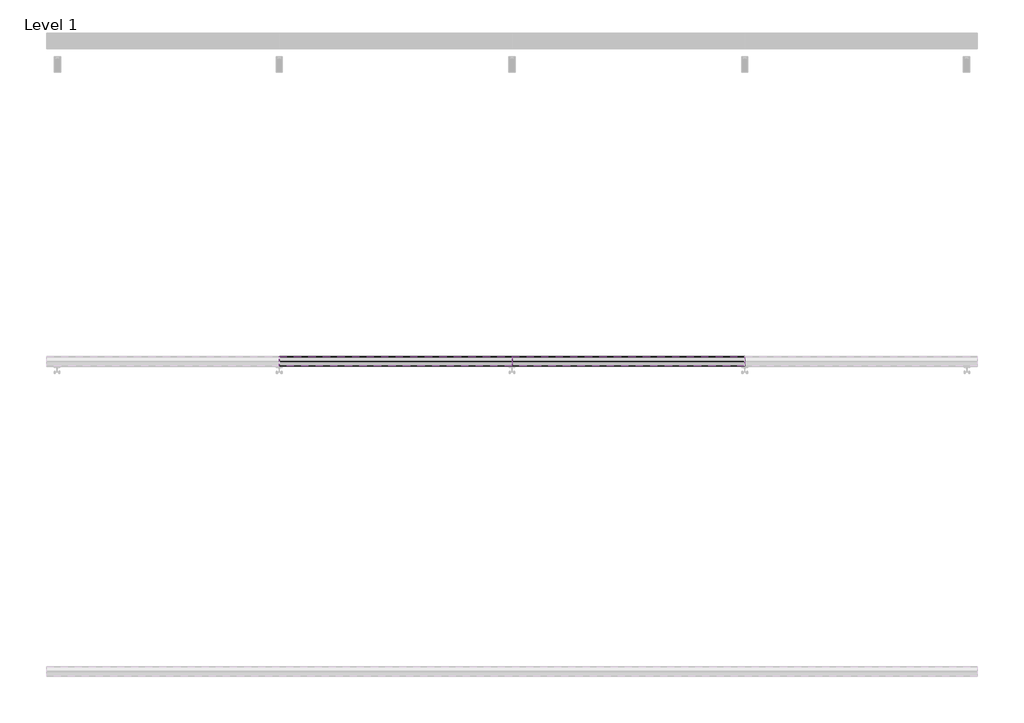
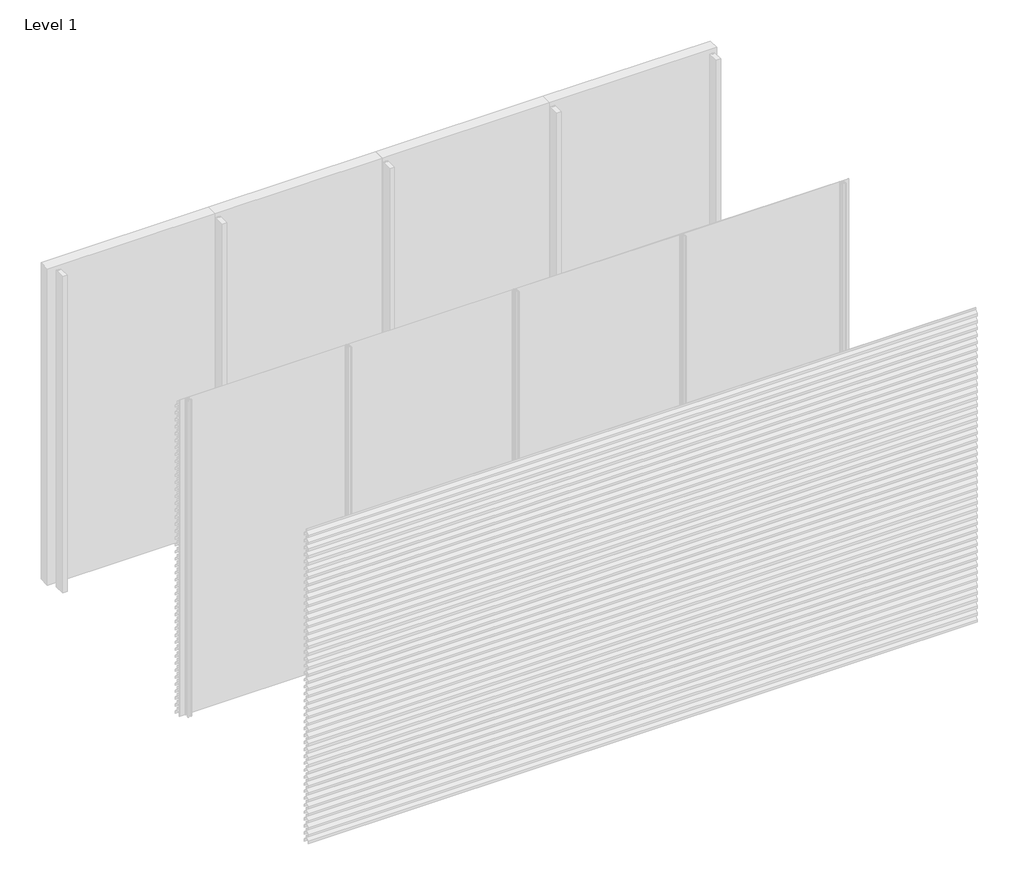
# One storey, part 11 of 35: 70 proxies.
"""IFC4 building model written with IfcOpenShell, lengths in millimetres."""

from ifc_helpers import new_model, si_unit, frame, origin, place, context, project, spatial, polyline, outline, extrude, element, save

model = new_model("IFC4")

# Units and contexts
model_context = context("Model", 3, world=origin())
ifc_project = project(units=[si_unit("LENGTHUNIT", "METRE", prefix="MILLI")], contexts=[model_context])

# Site, building, storey
site = spatial("IfcSite", under=ifc_project)
building = spatial("IfcBuilding", under=site)
storey = spatial("IfcBuildingStorey", under=building, Name="Level 1", Elevation=0.0)

# Proxies
placement = place(None, origin())
element("IfcBuildingElementProxy", 1, Name="Wall Sweeps", at=placement, inside=storey, context=model_context, shape_type="SweptSolid", body=[
    extrude(outline(polyline([(-41936.0, 1530.0), (-41936.0, 1510.0), (-41937.25, 1510.0), (-41937.25, 1529.4342979), (-41968.1138939, 1562.531772), (-41996.7, 1542.4392868), (-41996.7, 1523.6629874), (-41998.0, 1522.8506572), (-41998.0, 1543.1145472), (-41968.537525, 1563.823011), (-41968.537525, 1584.0), (-41967.1772624, 1584.0), (-41967.1772624, 1563.4335207), (-41936.0, 1530.0)])), frame((1500.0, 0.0, 0.0), z_axis=(1.0, 0.0, 0.0), x_axis=(0.0, 1.0, 0.0)), (0.0, 0.0, 1.0), 1500.0),
])
element("IfcBuildingElementProxy", 2, Name="Wall Sweeps", at=placement, inside=storey, context=model_context, shape_type="SweptSolid", body=[
    extrude(outline(polyline([(-41936.0, 1464.0), (-41936.0, 1444.0), (-41937.25, 1444.0), (-41937.25, 1463.4342979), (-41968.1138939, 1496.531772), (-41996.7, 1476.4392868), (-41996.7, 1457.6629874), (-41998.0, 1456.8506572), (-41998.0, 1477.1145472), (-41968.537525, 1497.823011), (-41968.537525, 1518.0), (-41967.1772624, 1518.0), (-41967.1772624, 1497.4335207), (-41936.0, 1464.0)])), frame((1500.0, 0.0, 0.0), z_axis=(1.0, 0.0, 0.0), x_axis=(0.0, 1.0, 0.0)), (0.0, 0.0, 1.0), 1500.0),
])
element("IfcBuildingElementProxy", 3, Name="Wall Sweeps", at=placement, inside=storey, context=model_context, shape_type="SweptSolid", body=[
    extrude(outline(polyline([(-41936.0, 1398.0), (-41936.0, 1378.0), (-41937.25, 1378.0), (-41937.25, 1397.4342979), (-41968.1138939, 1430.531772), (-41996.7, 1410.4392868), (-41996.7, 1391.6629874), (-41998.0, 1390.8506572), (-41998.0, 1411.1145472), (-41968.537525, 1431.823011), (-41968.537525, 1452.0), (-41967.1772624, 1452.0), (-41967.1772624, 1431.4335207), (-41936.0, 1398.0)])), frame((1500.0, 0.0, 0.0), z_axis=(1.0, 0.0, 0.0), x_axis=(0.0, 1.0, 0.0)), (0.0, 0.0, 1.0), 1500.0),
])
element("IfcBuildingElementProxy", 4, Name="Wall Sweeps", at=placement, inside=storey, context=model_context, shape_type="SweptSolid", body=[
    extrude(outline(polyline([(-41936.0, 1332.0), (-41936.0, 1312.0), (-41937.25, 1312.0), (-41937.25, 1331.4342979), (-41968.1138939, 1364.531772), (-41996.7, 1344.4392868), (-41996.7, 1325.6629874), (-41998.0, 1324.8506572), (-41998.0, 1345.1145472), (-41968.537525, 1365.823011), (-41968.537525, 1386.0), (-41967.1772624, 1386.0), (-41967.1772624, 1365.4335207), (-41936.0, 1332.0)])), frame((1500.0, 0.0, 0.0), z_axis=(1.0, 0.0, 0.0), x_axis=(0.0, 1.0, 0.0)), (0.0, 0.0, 1.0), 1500.0),
])
element("IfcBuildingElementProxy", 5, Name="Wall Sweeps", at=placement, inside=storey, context=model_context, shape_type="SweptSolid", body=[
    extrude(outline(polyline([(-41936.0, 1266.0), (-41936.0, 1246.0), (-41937.25, 1246.0), (-41937.25, 1265.4342979), (-41968.1138939, 1298.531772), (-41996.7, 1278.4392868), (-41996.7, 1259.6629874), (-41998.0, 1258.8506572), (-41998.0, 1279.1145472), (-41968.537525, 1299.823011), (-41968.537525, 1320.0), (-41967.1772624, 1320.0), (-41967.1772624, 1299.4335207), (-41936.0, 1266.0)])), frame((1500.0, 0.0, 0.0), z_axis=(1.0, 0.0, 0.0), x_axis=(0.0, 1.0, 0.0)), (0.0, 0.0, 1.0), 1500.0),
])
element("IfcBuildingElementProxy", 6, Name="Wall Sweeps", at=placement, inside=storey, context=model_context, shape_type="SweptSolid", body=[
    extrude(outline(polyline([(-41936.0, 1200.0), (-41936.0, 1180.0), (-41937.25, 1180.0), (-41937.25, 1199.4342979), (-41968.1138939, 1232.531772), (-41996.7, 1212.4392868), (-41996.7, 1193.6629874), (-41998.0, 1192.8506572), (-41998.0, 1213.1145472), (-41968.537525, 1233.823011), (-41968.537525, 1254.0), (-41967.1772624, 1254.0), (-41967.1772624, 1233.4335207), (-41936.0, 1200.0)])), frame((1500.0, 0.0, 0.0), z_axis=(1.0, 0.0, 0.0), x_axis=(0.0, 1.0, 0.0)), (0.0, 0.0, 1.0), 1500.0),
])
element("IfcBuildingElementProxy", 7, Name="Wall Sweeps", at=placement, inside=storey, context=model_context, shape_type="SweptSolid", body=[
    extrude(outline(polyline([(-41936.0, 1134.0), (-41936.0, 1114.0), (-41937.25, 1114.0), (-41937.25, 1133.4342979), (-41968.1138939, 1166.531772), (-41996.7, 1146.4392868), (-41996.7, 1127.6629874), (-41998.0, 1126.8506572), (-41998.0, 1147.1145472), (-41968.537525, 1167.823011), (-41968.537525, 1188.0), (-41967.1772624, 1188.0), (-41967.1772624, 1167.4335207), (-41936.0, 1134.0)])), frame((1500.0, 0.0, 0.0), z_axis=(1.0, 0.0, 0.0), x_axis=(0.0, 1.0, 0.0)), (0.0, 0.0, 1.0), 1500.0),
])
element("IfcBuildingElementProxy", 8, Name="Wall Sweeps", at=placement, inside=storey, context=model_context, shape_type="SweptSolid", body=[
    extrude(outline(polyline([(-41936.0, 1068.0), (-41936.0, 1048.0), (-41937.25, 1048.0), (-41937.25, 1067.4342979), (-41968.1138939, 1100.531772), (-41996.7, 1080.4392868), (-41996.7, 1061.6629874), (-41998.0, 1060.8506572), (-41998.0, 1081.1145472), (-41968.537525, 1101.823011), (-41968.537525, 1122.0), (-41967.1772624, 1122.0), (-41967.1772624, 1101.4335207), (-41936.0, 1068.0)])), frame((1500.0, 0.0, 0.0), z_axis=(1.0, 0.0, 0.0), x_axis=(0.0, 1.0, 0.0)), (0.0, 0.0, 1.0), 1500.0),
])
element("IfcBuildingElementProxy", 9, Name="Wall Sweeps", at=placement, inside=storey, context=model_context, shape_type="SweptSolid", body=[
    extrude(outline(polyline([(-41936.0, 1002.0), (-41936.0, 982.0), (-41937.25, 982.0), (-41937.25, 1001.4342979), (-41968.1138939, 1034.531772), (-41996.7, 1014.4392868), (-41996.7, 995.6629874), (-41998.0, 994.8506572), (-41998.0, 1015.1145472), (-41968.537525, 1035.823011), (-41968.537525, 1056.0), (-41967.1772624, 1056.0), (-41967.1772624, 1035.4335207), (-41936.0, 1002.0)])), frame((1500.0, 0.0, 0.0), z_axis=(1.0, 0.0, 0.0), x_axis=(0.0, 1.0, 0.0)), (0.0, 0.0, 1.0), 1500.0),
])
element("IfcBuildingElementProxy", 10, Name="Wall Sweeps", at=placement, inside=storey, context=model_context, shape_type="SweptSolid", body=[
    extrude(outline(polyline([(-41936.0, 936.0), (-41936.0, 916.0), (-41937.25, 916.0), (-41937.25, 935.4342979), (-41968.1138939, 968.531772), (-41996.7, 948.4392868), (-41996.7, 929.6629874), (-41998.0, 928.8506572), (-41998.0, 949.1145472), (-41968.537525, 969.823011), (-41968.537525, 990.0), (-41967.1772624, 990.0), (-41967.1772624, 969.4335207), (-41936.0, 936.0)])), frame((1500.0, 0.0, 0.0), z_axis=(1.0, 0.0, 0.0), x_axis=(0.0, 1.0, 0.0)), (0.0, 0.0, 1.0), 1500.0),
])
element("IfcBuildingElementProxy", 11, Name="Wall Sweeps", at=placement, inside=storey, context=model_context, shape_type="SweptSolid", body=[
    extrude(outline(polyline([(-41936.0, 870.0), (-41936.0, 850.0), (-41937.25, 850.0), (-41937.25, 869.4342979), (-41968.1138939, 902.531772), (-41996.7, 882.4392868), (-41996.7, 863.6629874), (-41998.0, 862.8506572), (-41998.0, 883.1145472), (-41968.537525, 903.823011), (-41968.537525, 924.0), (-41967.1772624, 924.0), (-41967.1772624, 903.4335207), (-41936.0, 870.0)])), frame((1500.0, 0.0, 0.0), z_axis=(1.0, 0.0, 0.0), x_axis=(0.0, 1.0, 0.0)), (0.0, 0.0, 1.0), 1500.0),
])
element("IfcBuildingElementProxy", 12, Name="Wall Sweeps", at=placement, inside=storey, context=model_context, shape_type="SweptSolid", body=[
    extrude(outline(polyline([(-41936.0, 804.0), (-41936.0, 784.0), (-41937.25, 784.0), (-41937.25, 803.4342979), (-41968.1138939, 836.531772), (-41996.7, 816.4392868), (-41996.7, 797.6629874), (-41998.0, 796.8506572), (-41998.0, 817.1145472), (-41968.537525, 837.823011), (-41968.537525, 858.0), (-41967.1772624, 858.0), (-41967.1772624, 837.4335207), (-41936.0, 804.0)])), frame((1500.0, 0.0, 0.0), z_axis=(1.0, 0.0, 0.0), x_axis=(0.0, 1.0, 0.0)), (0.0, 0.0, 1.0), 1500.0),
])
element("IfcBuildingElementProxy", 13, Name="Wall Sweeps", at=placement, inside=storey, context=model_context, shape_type="SweptSolid", body=[
    extrude(outline(polyline([(-41936.0, 738.0), (-41936.0, 718.0), (-41937.25, 718.0), (-41937.25, 737.4342979), (-41968.1138939, 770.531772), (-41996.7, 750.4392868), (-41996.7, 731.6629874), (-41998.0, 730.8506572), (-41998.0, 751.1145472), (-41968.537525, 771.823011), (-41968.537525, 792.0), (-41967.1772624, 792.0), (-41967.1772624, 771.4335207), (-41936.0, 738.0)])), frame((1500.0, 0.0, 0.0), z_axis=(1.0, 0.0, 0.0), x_axis=(0.0, 1.0, 0.0)), (0.0, 0.0, 1.0), 1500.0),
])
element("IfcBuildingElementProxy", 14, Name="Wall Sweeps", at=placement, inside=storey, context=model_context, shape_type="SweptSolid", body=[
    extrude(outline(polyline([(-41936.0, 672.0), (-41936.0, 652.0), (-41937.25, 652.0), (-41937.25, 671.4342979), (-41968.1138939, 704.531772), (-41996.7, 684.4392868), (-41996.7, 665.6629874), (-41998.0, 664.8506572), (-41998.0, 685.1145472), (-41968.537525, 705.823011), (-41968.537525, 726.0), (-41967.1772624, 726.0), (-41967.1772624, 705.4335207), (-41936.0, 672.0)])), frame((1500.0, 0.0, 0.0), z_axis=(1.0, 0.0, 0.0), x_axis=(0.0, 1.0, 0.0)), (0.0, 0.0, 1.0), 1500.0),
])
element("IfcBuildingElementProxy", 15, Name="Wall Sweeps", at=placement, inside=storey, context=model_context, shape_type="SweptSolid", body=[
    extrude(outline(polyline([(-41936.0, 606.0), (-41936.0, 586.0), (-41937.25, 586.0), (-41937.25, 605.4342979), (-41968.1138939, 638.531772), (-41996.7, 618.4392868), (-41996.7, 599.6629874), (-41998.0, 598.8506572), (-41998.0, 619.1145472), (-41968.537525, 639.823011), (-41968.537525, 660.0), (-41967.1772624, 660.0), (-41967.1772624, 639.4335207), (-41936.0, 606.0)])), frame((1500.0, 0.0, 0.0), z_axis=(1.0, 0.0, 0.0), x_axis=(0.0, 1.0, 0.0)), (0.0, 0.0, 1.0), 1500.0),
])
element("IfcBuildingElementProxy", 16, Name="Wall Sweeps", at=placement, inside=storey, context=model_context, shape_type="SweptSolid", body=[
    extrude(outline(polyline([(-41936.0, 540.0), (-41936.0, 520.0), (-41937.25, 520.0), (-41937.25, 539.4342979), (-41968.1138939, 572.531772), (-41996.7, 552.4392868), (-41996.7, 533.6629874), (-41998.0, 532.8506572), (-41998.0, 553.1145472), (-41968.537525, 573.823011), (-41968.537525, 594.0), (-41967.1772624, 594.0), (-41967.1772624, 573.4335207), (-41936.0, 540.0)])), frame((1500.0, 0.0, 0.0), z_axis=(1.0, 0.0, 0.0), x_axis=(0.0, 1.0, 0.0)), (0.0, 0.0, 1.0), 1500.0),
])
element("IfcBuildingElementProxy", 17, Name="Wall Sweeps", at=placement, inside=storey, context=model_context, shape_type="SweptSolid", body=[
    extrude(outline(polyline([(-41936.0, 474.0), (-41936.0, 454.0), (-41937.25, 454.0), (-41937.25, 473.4342979), (-41968.1138939, 506.531772), (-41996.7, 486.4392868), (-41996.7, 467.6629874), (-41998.0, 466.8506572), (-41998.0, 487.1145472), (-41968.537525, 507.823011), (-41968.537525, 528.0), (-41967.1772624, 528.0), (-41967.1772624, 507.4335207), (-41936.0, 474.0)])), frame((1500.0, 0.0, 0.0), z_axis=(1.0, 0.0, 0.0), x_axis=(0.0, 1.0, 0.0)), (0.0, 0.0, 1.0), 1500.0),
])
element("IfcBuildingElementProxy", 18, Name="Wall Sweeps", at=placement, inside=storey, context=model_context, shape_type="SweptSolid", body=[
    extrude(outline(polyline([(-41936.0, 408.0), (-41936.0, 388.0), (-41937.25, 388.0), (-41937.25, 407.4342979), (-41968.1138939, 440.531772), (-41996.7, 420.4392868), (-41996.7, 401.6629874), (-41998.0, 400.8506572), (-41998.0, 421.1145472), (-41968.537525, 441.823011), (-41968.537525, 462.0), (-41967.1772624, 462.0), (-41967.1772624, 441.4335207), (-41936.0, 408.0)])), frame((1500.0, 0.0, 0.0), z_axis=(1.0, 0.0, 0.0), x_axis=(0.0, 1.0, 0.0)), (0.0, 0.0, 1.0), 1500.0),
])
element("IfcBuildingElementProxy", 19, Name="Wall Sweeps", at=placement, inside=storey, context=model_context, shape_type="SweptSolid", body=[
    extrude(outline(polyline([(-41936.0, 342.0), (-41936.0, 322.0), (-41937.25, 322.0), (-41937.25, 341.4342979), (-41968.1138939, 374.531772), (-41996.7, 354.4392868), (-41996.7, 335.6629874), (-41998.0, 334.8506572), (-41998.0, 355.1145472), (-41968.537525, 375.823011), (-41968.537525, 396.0), (-41967.1772624, 396.0), (-41967.1772624, 375.4335207), (-41936.0, 342.0)])), frame((1500.0, 0.0, 0.0), z_axis=(1.0, 0.0, 0.0), x_axis=(0.0, 1.0, 0.0)), (0.0, 0.0, 1.0), 1500.0),
])
element("IfcBuildingElementProxy", 20, Name="Wall Sweeps", at=placement, inside=storey, context=model_context, shape_type="SweptSolid", body=[
    extrude(outline(polyline([(-41936.0, 276.0), (-41936.0, 256.0), (-41937.25, 256.0), (-41937.25, 275.4342979), (-41968.1138939, 308.531772), (-41996.7, 288.4392868), (-41996.7, 269.6629874), (-41998.0, 268.8506572), (-41998.0, 289.1145472), (-41968.537525, 309.823011), (-41968.537525, 330.0), (-41967.1772624, 330.0), (-41967.1772624, 309.4335207), (-41936.0, 276.0)])), frame((1500.0, 0.0, 0.0), z_axis=(1.0, 0.0, 0.0), x_axis=(0.0, 1.0, 0.0)), (0.0, 0.0, 1.0), 1500.0),
])
element("IfcBuildingElementProxy", 21, Name="Wall Sweeps", at=placement, inside=storey, context=model_context, shape_type="SweptSolid", body=[
    extrude(outline(polyline([(-41936.0, 210.0), (-41936.0, 190.0), (-41937.25, 190.0), (-41937.25, 209.4342979), (-41968.1138939, 242.531772), (-41996.7, 222.4392868), (-41996.7, 203.6629874), (-41998.0, 202.8506572), (-41998.0, 223.1145472), (-41968.537525, 243.823011), (-41968.537525, 264.0), (-41967.1772624, 264.0), (-41967.1772624, 243.4335207), (-41936.0, 210.0)])), frame((1500.0, 0.0, 0.0), z_axis=(1.0, 0.0, 0.0), x_axis=(0.0, 1.0, 0.0)), (0.0, 0.0, 1.0), 1500.0),
])
element("IfcBuildingElementProxy", 22, Name="Wall Sweeps", at=placement, inside=storey, context=model_context, shape_type="SweptSolid", body=[
    extrude(outline(polyline([(-41936.0, 144.0), (-41936.0, 124.0), (-41937.25, 124.0), (-41937.25, 143.4342979), (-41968.1138939, 176.531772), (-41996.7, 156.4392868), (-41996.7, 137.6629874), (-41998.0, 136.8506572), (-41998.0, 157.1145472), (-41968.537525, 177.823011), (-41968.537525, 198.0), (-41967.1772624, 198.0), (-41967.1772624, 177.4335207), (-41936.0, 144.0)])), frame((1500.0, 0.0, 0.0), z_axis=(1.0, 0.0, 0.0), x_axis=(0.0, 1.0, 0.0)), (0.0, 0.0, 1.0), 1500.0),
])
element("IfcBuildingElementProxy", 23, Name="Wall Sweeps", at=placement, inside=storey, context=model_context, shape_type="SweptSolid", body=[
    extrude(outline(polyline([(-41936.0, 78.0), (-41936.0, 58.0), (-41937.25, 58.0), (-41937.25, 77.4342979), (-41968.1138939, 110.531772), (-41996.7, 90.4392868), (-41996.7, 71.6629874), (-41998.0, 70.8506572), (-41998.0, 91.1145472), (-41968.537525, 111.823011), (-41968.537525, 132.0), (-41967.1772624, 132.0), (-41967.1772624, 111.4335207), (-41936.0, 78.0)])), frame((1500.0, 0.0, 0.0), z_axis=(1.0, 0.0, 0.0), x_axis=(0.0, 1.0, 0.0)), (0.0, 0.0, 1.0), 1500.0),
])
element("IfcBuildingElementProxy", 24, Name="Wall Sweeps", at=placement, inside=storey, context=model_context, shape_type="SweptSolid", body=[
    extrude(outline(polyline([(-41936.0, 12.0), (-41936.0, -8.0), (-41937.25, -8.0), (-41937.25, 11.4342979), (-41968.1138939, 44.531772), (-41996.7, 24.4392868), (-41996.7, 5.6629874), (-41998.0, 4.8506572), (-41998.0, 25.1145472), (-41968.537525, 45.823011), (-41968.537525, 66.0), (-41967.1772624, 66.0), (-41967.1772624, 45.4335207), (-41936.0, 12.0)])), frame((1500.0, 0.0, 0.0), z_axis=(1.0, 0.0, 0.0), x_axis=(0.0, 1.0, 0.0)), (0.0, 0.0, 1.0), 1500.0),
])
element("IfcBuildingElementProxy", 25, Name="Wall Sweeps", at=placement, inside=storey, context=model_context, shape_type="SweptSolid", body=[
    extrude(outline(polyline([(-41936.0, 2916.0), (-41936.0, 2896.0), (-41937.25, 2896.0), (-41937.25, 2915.4342979), (-41968.1138939, 2948.531772), (-41996.7, 2928.4392868), (-41996.7, 2909.6629874), (-41998.0, 2908.8506572), (-41998.0, 2929.1145472), (-41968.537525, 2949.823011), (-41968.537525, 2970.0), (-41967.1772624, 2970.0), (-41967.1772624, 2949.4335207), (-41936.0, 2916.0)])), frame((3000.0, 0.0, 0.0), z_axis=(1.0, 0.0, 0.0), x_axis=(0.0, 1.0, 0.0)), (0.0, 0.0, 1.0), 1500.0),
])
element("IfcBuildingElementProxy", 26, Name="Wall Sweeps", at=placement, inside=storey, context=model_context, shape_type="SweptSolid", body=[
    extrude(outline(polyline([(-41936.0, 2850.0), (-41936.0, 2830.0), (-41937.25, 2830.0), (-41937.25, 2849.4342979), (-41968.1138939, 2882.531772), (-41996.7, 2862.4392868), (-41996.7, 2843.6629874), (-41998.0, 2842.8506572), (-41998.0, 2863.1145472), (-41968.537525, 2883.823011), (-41968.537525, 2904.0), (-41967.1772624, 2904.0), (-41967.1772624, 2883.4335207), (-41936.0, 2850.0)])), frame((3000.0, 0.0, 0.0), z_axis=(1.0, 0.0, 0.0), x_axis=(0.0, 1.0, 0.0)), (0.0, 0.0, 1.0), 1500.0),
])
element("IfcBuildingElementProxy", 27, Name="Wall Sweeps", at=placement, inside=storey, context=model_context, shape_type="SweptSolid", body=[
    extrude(outline(polyline([(-41936.0, 2784.0), (-41936.0, 2764.0), (-41937.25, 2764.0), (-41937.25, 2783.4342979), (-41968.1138939, 2816.531772), (-41996.7, 2796.4392868), (-41996.7, 2777.6629874), (-41998.0, 2776.8506572), (-41998.0, 2797.1145472), (-41968.537525, 2817.823011), (-41968.537525, 2838.0), (-41967.1772624, 2838.0), (-41967.1772624, 2817.4335207), (-41936.0, 2784.0)])), frame((3000.0, 0.0, 0.0), z_axis=(1.0, 0.0, 0.0), x_axis=(0.0, 1.0, 0.0)), (0.0, 0.0, 1.0), 1500.0),
])
element("IfcBuildingElementProxy", 28, Name="Wall Sweeps", at=placement, inside=storey, context=model_context, shape_type="SweptSolid", body=[
    extrude(outline(polyline([(-41936.0, 2718.0), (-41936.0, 2698.0), (-41937.25, 2698.0), (-41937.25, 2717.4342979), (-41968.1138939, 2750.531772), (-41996.7, 2730.4392868), (-41996.7, 2711.6629874), (-41998.0, 2710.8506572), (-41998.0, 2731.1145472), (-41968.537525, 2751.823011), (-41968.537525, 2772.0), (-41967.1772624, 2772.0), (-41967.1772624, 2751.4335207), (-41936.0, 2718.0)])), frame((3000.0, 0.0, 0.0), z_axis=(1.0, 0.0, 0.0), x_axis=(0.0, 1.0, 0.0)), (0.0, 0.0, 1.0), 1500.0),
])
element("IfcBuildingElementProxy", 29, Name="Wall Sweeps", at=placement, inside=storey, context=model_context, shape_type="SweptSolid", body=[
    extrude(outline(polyline([(-41936.0, 2652.0), (-41936.0, 2632.0), (-41937.25, 2632.0), (-41937.25, 2651.4342979), (-41968.1138939, 2684.531772), (-41996.7, 2664.4392868), (-41996.7, 2645.6629874), (-41998.0, 2644.8506572), (-41998.0, 2665.1145472), (-41968.537525, 2685.823011), (-41968.537525, 2706.0), (-41967.1772624, 2706.0), (-41967.1772624, 2685.4335207), (-41936.0, 2652.0)])), frame((3000.0, 0.0, 0.0), z_axis=(1.0, 0.0, 0.0), x_axis=(0.0, 1.0, 0.0)), (0.0, 0.0, 1.0), 1500.0),
])
element("IfcBuildingElementProxy", 30, Name="Wall Sweeps", at=placement, inside=storey, context=model_context, shape_type="SweptSolid", body=[
    extrude(outline(polyline([(-41936.0, 2586.0), (-41936.0, 2566.0), (-41937.25, 2566.0), (-41937.25, 2585.4342979), (-41968.1138939, 2618.531772), (-41996.7, 2598.4392868), (-41996.7, 2579.6629874), (-41998.0, 2578.8506572), (-41998.0, 2599.1145472), (-41968.537525, 2619.823011), (-41968.537525, 2640.0), (-41967.1772624, 2640.0), (-41967.1772624, 2619.4335207), (-41936.0, 2586.0)])), frame((3000.0, 0.0, 0.0), z_axis=(1.0, 0.0, 0.0), x_axis=(0.0, 1.0, 0.0)), (0.0, 0.0, 1.0), 1500.0),
])
element("IfcBuildingElementProxy", 31, Name="Wall Sweeps", at=placement, inside=storey, context=model_context, shape_type="SweptSolid", body=[
    extrude(outline(polyline([(-41936.0, 2520.0), (-41936.0, 2500.0), (-41937.25, 2500.0), (-41937.25, 2519.4342979), (-41968.1138939, 2552.531772), (-41996.7, 2532.4392868), (-41996.7, 2513.6629874), (-41998.0, 2512.8506572), (-41998.0, 2533.1145472), (-41968.537525, 2553.823011), (-41968.537525, 2574.0), (-41967.1772624, 2574.0), (-41967.1772624, 2553.4335207), (-41936.0, 2520.0)])), frame((3000.0, 0.0, 0.0), z_axis=(1.0, 0.0, 0.0), x_axis=(0.0, 1.0, 0.0)), (0.0, 0.0, 1.0), 1500.0),
])
element("IfcBuildingElementProxy", 32, Name="Wall Sweeps", at=placement, inside=storey, context=model_context, shape_type="SweptSolid", body=[
    extrude(outline(polyline([(-41936.0, 2454.0), (-41936.0, 2434.0), (-41937.25, 2434.0), (-41937.25, 2453.4342979), (-41968.1138939, 2486.531772), (-41996.7, 2466.4392868), (-41996.7, 2447.6629874), (-41998.0, 2446.8506572), (-41998.0, 2467.1145472), (-41968.537525, 2487.823011), (-41968.537525, 2508.0), (-41967.1772624, 2508.0), (-41967.1772624, 2487.4335207), (-41936.0, 2454.0)])), frame((3000.0, 0.0, 0.0), z_axis=(1.0, 0.0, 0.0), x_axis=(0.0, 1.0, 0.0)), (0.0, 0.0, 1.0), 1500.0),
])
element("IfcBuildingElementProxy", 33, Name="Wall Sweeps", at=placement, inside=storey, context=model_context, shape_type="SweptSolid", body=[
    extrude(outline(polyline([(-41936.0, 2388.0), (-41936.0, 2368.0), (-41937.25, 2368.0), (-41937.25, 2387.4342979), (-41968.1138939, 2420.531772), (-41996.7, 2400.4392868), (-41996.7, 2381.6629874), (-41998.0, 2380.8506572), (-41998.0, 2401.1145472), (-41968.537525, 2421.823011), (-41968.537525, 2442.0), (-41967.1772624, 2442.0), (-41967.1772624, 2421.4335207), (-41936.0, 2388.0)])), frame((3000.0, 0.0, 0.0), z_axis=(1.0, 0.0, 0.0), x_axis=(0.0, 1.0, 0.0)), (0.0, 0.0, 1.0), 1500.0),
])
element("IfcBuildingElementProxy", 34, Name="Wall Sweeps", at=placement, inside=storey, context=model_context, shape_type="SweptSolid", body=[
    extrude(outline(polyline([(-41936.0, 2322.0), (-41936.0, 2302.0), (-41937.25, 2302.0), (-41937.25, 2321.4342979), (-41968.1138939, 2354.531772), (-41996.7, 2334.4392868), (-41996.7, 2315.6629874), (-41998.0, 2314.8506572), (-41998.0, 2335.1145472), (-41968.537525, 2355.823011), (-41968.537525, 2376.0), (-41967.1772624, 2376.0), (-41967.1772624, 2355.4335207), (-41936.0, 2322.0)])), frame((3000.0, 0.0, 0.0), z_axis=(1.0, 0.0, 0.0), x_axis=(0.0, 1.0, 0.0)), (0.0, 0.0, 1.0), 1500.0),
])
element("IfcBuildingElementProxy", 35, Name="Wall Sweeps", at=placement, inside=storey, context=model_context, shape_type="SweptSolid", body=[
    extrude(outline(polyline([(-41936.0, 2256.0), (-41936.0, 2236.0), (-41937.25, 2236.0), (-41937.25, 2255.4342979), (-41968.1138939, 2288.531772), (-41996.7, 2268.4392868), (-41996.7, 2249.6629874), (-41998.0, 2248.8506572), (-41998.0, 2269.1145472), (-41968.537525, 2289.823011), (-41968.537525, 2310.0), (-41967.1772624, 2310.0), (-41967.1772624, 2289.4335207), (-41936.0, 2256.0)])), frame((3000.0, 0.0, 0.0), z_axis=(1.0, 0.0, 0.0), x_axis=(0.0, 1.0, 0.0)), (0.0, 0.0, 1.0), 1500.0),
])
element("IfcBuildingElementProxy", 36, Name="Wall Sweeps", at=placement, inside=storey, context=model_context, shape_type="SweptSolid", body=[
    extrude(outline(polyline([(-41936.0, 2190.0), (-41936.0, 2170.0), (-41937.25, 2170.0), (-41937.25, 2189.4342979), (-41968.1138939, 2222.531772), (-41996.7, 2202.4392868), (-41996.7, 2183.6629874), (-41998.0, 2182.8506572), (-41998.0, 2203.1145472), (-41968.537525, 2223.823011), (-41968.537525, 2244.0), (-41967.1772624, 2244.0), (-41967.1772624, 2223.4335207), (-41936.0, 2190.0)])), frame((3000.0, 0.0, 0.0), z_axis=(1.0, 0.0, 0.0), x_axis=(0.0, 1.0, 0.0)), (0.0, 0.0, 1.0), 1500.0),
])
element("IfcBuildingElementProxy", 37, Name="Wall Sweeps", at=placement, inside=storey, context=model_context, shape_type="SweptSolid", body=[
    extrude(outline(polyline([(-41936.0, 2124.0), (-41936.0, 2104.0), (-41937.25, 2104.0), (-41937.25, 2123.4342979), (-41968.1138939, 2156.531772), (-41996.7, 2136.4392868), (-41996.7, 2117.6629874), (-41998.0, 2116.8506572), (-41998.0, 2137.1145472), (-41968.537525, 2157.823011), (-41968.537525, 2178.0), (-41967.1772624, 2178.0), (-41967.1772624, 2157.4335207), (-41936.0, 2124.0)])), frame((3000.0, 0.0, 0.0), z_axis=(1.0, 0.0, 0.0), x_axis=(0.0, 1.0, 0.0)), (0.0, 0.0, 1.0), 1500.0),
])
element("IfcBuildingElementProxy", 38, Name="Wall Sweeps", at=placement, inside=storey, context=model_context, shape_type="SweptSolid", body=[
    extrude(outline(polyline([(-41936.0, 2058.0), (-41936.0, 2038.0), (-41937.25, 2038.0), (-41937.25, 2057.4342979), (-41968.1138939, 2090.531772), (-41996.7, 2070.4392868), (-41996.7, 2051.6629874), (-41998.0, 2050.8506572), (-41998.0, 2071.1145472), (-41968.537525, 2091.823011), (-41968.537525, 2112.0), (-41967.1772624, 2112.0), (-41967.1772624, 2091.4335207), (-41936.0, 2058.0)])), frame((3000.0, 0.0, 0.0), z_axis=(1.0, 0.0, 0.0), x_axis=(0.0, 1.0, 0.0)), (0.0, 0.0, 1.0), 1500.0),
])
element("IfcBuildingElementProxy", 39, Name="Wall Sweeps", at=placement, inside=storey, context=model_context, shape_type="SweptSolid", body=[
    extrude(outline(polyline([(-41936.0, 1992.0), (-41936.0, 1972.0), (-41937.25, 1972.0), (-41937.25, 1991.4342979), (-41968.1138939, 2024.531772), (-41996.7, 2004.4392868), (-41996.7, 1985.6629874), (-41998.0, 1984.8506572), (-41998.0, 2005.1145472), (-41968.537525, 2025.823011), (-41968.537525, 2046.0), (-41967.1772624, 2046.0), (-41967.1772624, 2025.4335207), (-41936.0, 1992.0)])), frame((3000.0, 0.0, 0.0), z_axis=(1.0, 0.0, 0.0), x_axis=(0.0, 1.0, 0.0)), (0.0, 0.0, 1.0), 1500.0),
])
element("IfcBuildingElementProxy", 40, Name="Wall Sweeps", at=placement, inside=storey, context=model_context, shape_type="SweptSolid", body=[
    extrude(outline(polyline([(-41936.0, 1926.0), (-41936.0, 1906.0), (-41937.25, 1906.0), (-41937.25, 1925.4342979), (-41968.1138939, 1958.531772), (-41996.7, 1938.4392868), (-41996.7, 1919.6629874), (-41998.0, 1918.8506572), (-41998.0, 1939.1145472), (-41968.537525, 1959.823011), (-41968.537525, 1980.0), (-41967.1772624, 1980.0), (-41967.1772624, 1959.4335207), (-41936.0, 1926.0)])), frame((3000.0, 0.0, 0.0), z_axis=(1.0, 0.0, 0.0), x_axis=(0.0, 1.0, 0.0)), (0.0, 0.0, 1.0), 1500.0),
])
element("IfcBuildingElementProxy", 41, Name="Wall Sweeps", at=placement, inside=storey, context=model_context, shape_type="SweptSolid", body=[
    extrude(outline(polyline([(-41936.0, 1860.0), (-41936.0, 1840.0), (-41937.25, 1840.0), (-41937.25, 1859.4342979), (-41968.1138939, 1892.531772), (-41996.7, 1872.4392868), (-41996.7, 1853.6629874), (-41998.0, 1852.8506572), (-41998.0, 1873.1145472), (-41968.537525, 1893.823011), (-41968.537525, 1914.0), (-41967.1772624, 1914.0), (-41967.1772624, 1893.4335207), (-41936.0, 1860.0)])), frame((3000.0, 0.0, 0.0), z_axis=(1.0, 0.0, 0.0), x_axis=(0.0, 1.0, 0.0)), (0.0, 0.0, 1.0), 1500.0),
])
element("IfcBuildingElementProxy", 42, Name="Wall Sweeps", at=placement, inside=storey, context=model_context, shape_type="SweptSolid", body=[
    extrude(outline(polyline([(-41936.0, 1794.0), (-41936.0, 1774.0), (-41937.25, 1774.0), (-41937.25, 1793.4342979), (-41968.1138939, 1826.531772), (-41996.7, 1806.4392868), (-41996.7, 1787.6629874), (-41998.0, 1786.8506572), (-41998.0, 1807.1145472), (-41968.537525, 1827.823011), (-41968.537525, 1848.0), (-41967.1772624, 1848.0), (-41967.1772624, 1827.4335207), (-41936.0, 1794.0)])), frame((3000.0, 0.0, 0.0), z_axis=(1.0, 0.0, 0.0), x_axis=(0.0, 1.0, 0.0)), (0.0, 0.0, 1.0), 1500.0),
])
element("IfcBuildingElementProxy", 43, Name="Wall Sweeps", at=placement, inside=storey, context=model_context, shape_type="SweptSolid", body=[
    extrude(outline(polyline([(-41936.0, 1728.0), (-41936.0, 1708.0), (-41937.25, 1708.0), (-41937.25, 1727.4342979), (-41968.1138939, 1760.531772), (-41996.7, 1740.4392868), (-41996.7, 1721.6629874), (-41998.0, 1720.8506572), (-41998.0, 1741.1145472), (-41968.537525, 1761.823011), (-41968.537525, 1782.0), (-41967.1772624, 1782.0), (-41967.1772624, 1761.4335207), (-41936.0, 1728.0)])), frame((3000.0, 0.0, 0.0), z_axis=(1.0, 0.0, 0.0), x_axis=(0.0, 1.0, 0.0)), (0.0, 0.0, 1.0), 1500.0),
])
element("IfcBuildingElementProxy", 44, Name="Wall Sweeps", at=placement, inside=storey, context=model_context, shape_type="SweptSolid", body=[
    extrude(outline(polyline([(-41936.0, 1662.0), (-41936.0, 1642.0), (-41937.25, 1642.0), (-41937.25, 1661.4342979), (-41968.1138939, 1694.531772), (-41996.7, 1674.4392868), (-41996.7, 1655.6629874), (-41998.0, 1654.8506572), (-41998.0, 1675.1145472), (-41968.537525, 1695.823011), (-41968.537525, 1716.0), (-41967.1772624, 1716.0), (-41967.1772624, 1695.4335207), (-41936.0, 1662.0)])), frame((3000.0, 0.0, 0.0), z_axis=(1.0, 0.0, 0.0), x_axis=(0.0, 1.0, 0.0)), (0.0, 0.0, 1.0), 1500.0),
])
element("IfcBuildingElementProxy", 45, Name="Wall Sweeps", at=placement, inside=storey, context=model_context, shape_type="SweptSolid", body=[
    extrude(outline(polyline([(-41936.0, 1596.0), (-41936.0, 1576.0), (-41937.25, 1576.0), (-41937.25, 1595.4342979), (-41968.1138939, 1628.531772), (-41996.7, 1608.4392868), (-41996.7, 1589.6629874), (-41998.0, 1588.8506572), (-41998.0, 1609.1145472), (-41968.537525, 1629.823011), (-41968.537525, 1650.0), (-41967.1772624, 1650.0), (-41967.1772624, 1629.4335207), (-41936.0, 1596.0)])), frame((3000.0, 0.0, 0.0), z_axis=(1.0, 0.0, 0.0), x_axis=(0.0, 1.0, 0.0)), (0.0, 0.0, 1.0), 1500.0),
])
element("IfcBuildingElementProxy", 46, Name="Wall Sweeps", at=placement, inside=storey, context=model_context, shape_type="SweptSolid", body=[
    extrude(outline(polyline([(-41936.0, 1530.0), (-41936.0, 1510.0), (-41937.25, 1510.0), (-41937.25, 1529.4342979), (-41968.1138939, 1562.531772), (-41996.7, 1542.4392868), (-41996.7, 1523.6629874), (-41998.0, 1522.8506572), (-41998.0, 1543.1145472), (-41968.537525, 1563.823011), (-41968.537525, 1584.0), (-41967.1772624, 1584.0), (-41967.1772624, 1563.4335207), (-41936.0, 1530.0)])), frame((3000.0, 0.0, 0.0), z_axis=(1.0, 0.0, 0.0), x_axis=(0.0, 1.0, 0.0)), (0.0, 0.0, 1.0), 1500.0),
])
element("IfcBuildingElementProxy", 47, Name="Wall Sweeps", at=placement, inside=storey, context=model_context, shape_type="SweptSolid", body=[
    extrude(outline(polyline([(-41936.0, 1464.0), (-41936.0, 1444.0), (-41937.25, 1444.0), (-41937.25, 1463.4342979), (-41968.1138939, 1496.531772), (-41996.7, 1476.4392868), (-41996.7, 1457.6629874), (-41998.0, 1456.8506572), (-41998.0, 1477.1145472), (-41968.537525, 1497.823011), (-41968.537525, 1518.0), (-41967.1772624, 1518.0), (-41967.1772624, 1497.4335207), (-41936.0, 1464.0)])), frame((3000.0, 0.0, 0.0), z_axis=(1.0, 0.0, 0.0), x_axis=(0.0, 1.0, 0.0)), (0.0, 0.0, 1.0), 1500.0),
])
element("IfcBuildingElementProxy", 48, Name="Wall Sweeps", at=placement, inside=storey, context=model_context, shape_type="SweptSolid", body=[
    extrude(outline(polyline([(-41936.0, 1398.0), (-41936.0, 1378.0), (-41937.25, 1378.0), (-41937.25, 1397.4342979), (-41968.1138939, 1430.531772), (-41996.7, 1410.4392868), (-41996.7, 1391.6629874), (-41998.0, 1390.8506572), (-41998.0, 1411.1145472), (-41968.537525, 1431.823011), (-41968.537525, 1452.0), (-41967.1772624, 1452.0), (-41967.1772624, 1431.4335207), (-41936.0, 1398.0)])), frame((3000.0, 0.0, 0.0), z_axis=(1.0, 0.0, 0.0), x_axis=(0.0, 1.0, 0.0)), (0.0, 0.0, 1.0), 1500.0),
])
element("IfcBuildingElementProxy", 49, Name="Wall Sweeps", at=placement, inside=storey, context=model_context, shape_type="SweptSolid", body=[
    extrude(outline(polyline([(-41936.0, 1332.0), (-41936.0, 1312.0), (-41937.25, 1312.0), (-41937.25, 1331.4342979), (-41968.1138939, 1364.531772), (-41996.7, 1344.4392868), (-41996.7, 1325.6629874), (-41998.0, 1324.8506572), (-41998.0, 1345.1145472), (-41968.537525, 1365.823011), (-41968.537525, 1386.0), (-41967.1772624, 1386.0), (-41967.1772624, 1365.4335207), (-41936.0, 1332.0)])), frame((3000.0, 0.0, 0.0), z_axis=(1.0, 0.0, 0.0), x_axis=(0.0, 1.0, 0.0)), (0.0, 0.0, 1.0), 1500.0),
])
element("IfcBuildingElementProxy", 50, Name="Wall Sweeps", at=placement, inside=storey, context=model_context, shape_type="SweptSolid", body=[
    extrude(outline(polyline([(-41936.0, 1266.0), (-41936.0, 1246.0), (-41937.25, 1246.0), (-41937.25, 1265.4342979), (-41968.1138939, 1298.531772), (-41996.7, 1278.4392868), (-41996.7, 1259.6629874), (-41998.0, 1258.8506572), (-41998.0, 1279.1145472), (-41968.537525, 1299.823011), (-41968.537525, 1320.0), (-41967.1772624, 1320.0), (-41967.1772624, 1299.4335207), (-41936.0, 1266.0)])), frame((3000.0, 0.0, 0.0), z_axis=(1.0, 0.0, 0.0), x_axis=(0.0, 1.0, 0.0)), (0.0, 0.0, 1.0), 1500.0),
])
element("IfcBuildingElementProxy", 51, Name="Wall Sweeps", at=placement, inside=storey, context=model_context, shape_type="SweptSolid", body=[
    extrude(outline(polyline([(-41936.0, 1200.0), (-41936.0, 1180.0), (-41937.25, 1180.0), (-41937.25, 1199.4342979), (-41968.1138939, 1232.531772), (-41996.7, 1212.4392868), (-41996.7, 1193.6629874), (-41998.0, 1192.8506572), (-41998.0, 1213.1145472), (-41968.537525, 1233.823011), (-41968.537525, 1254.0), (-41967.1772624, 1254.0), (-41967.1772624, 1233.4335207), (-41936.0, 1200.0)])), frame((3000.0, 0.0, 0.0), z_axis=(1.0, 0.0, 0.0), x_axis=(0.0, 1.0, 0.0)), (0.0, 0.0, 1.0), 1500.0),
])
element("IfcBuildingElementProxy", 52, Name="Wall Sweeps", at=placement, inside=storey, context=model_context, shape_type="SweptSolid", body=[
    extrude(outline(polyline([(-41936.0, 1134.0), (-41936.0, 1114.0), (-41937.25, 1114.0), (-41937.25, 1133.4342979), (-41968.1138939, 1166.531772), (-41996.7, 1146.4392868), (-41996.7, 1127.6629874), (-41998.0, 1126.8506572), (-41998.0, 1147.1145472), (-41968.537525, 1167.823011), (-41968.537525, 1188.0), (-41967.1772624, 1188.0), (-41967.1772624, 1167.4335207), (-41936.0, 1134.0)])), frame((3000.0, 0.0, 0.0), z_axis=(1.0, 0.0, 0.0), x_axis=(0.0, 1.0, 0.0)), (0.0, 0.0, 1.0), 1500.0),
])
element("IfcBuildingElementProxy", 53, Name="Wall Sweeps", at=placement, inside=storey, context=model_context, shape_type="SweptSolid", body=[
    extrude(outline(polyline([(-41936.0, 1068.0), (-41936.0, 1048.0), (-41937.25, 1048.0), (-41937.25, 1067.4342979), (-41968.1138939, 1100.531772), (-41996.7, 1080.4392868), (-41996.7, 1061.6629874), (-41998.0, 1060.8506572), (-41998.0, 1081.1145472), (-41968.537525, 1101.823011), (-41968.537525, 1122.0), (-41967.1772624, 1122.0), (-41967.1772624, 1101.4335207), (-41936.0, 1068.0)])), frame((3000.0, 0.0, 0.0), z_axis=(1.0, 0.0, 0.0), x_axis=(0.0, 1.0, 0.0)), (0.0, 0.0, 1.0), 1500.0),
])
element("IfcBuildingElementProxy", 54, Name="Wall Sweeps", at=placement, inside=storey, context=model_context, shape_type="SweptSolid", body=[
    extrude(outline(polyline([(-41936.0, 1002.0), (-41936.0, 982.0), (-41937.25, 982.0), (-41937.25, 1001.4342979), (-41968.1138939, 1034.531772), (-41996.7, 1014.4392868), (-41996.7, 995.6629874), (-41998.0, 994.8506572), (-41998.0, 1015.1145472), (-41968.537525, 1035.823011), (-41968.537525, 1056.0), (-41967.1772624, 1056.0), (-41967.1772624, 1035.4335207), (-41936.0, 1002.0)])), frame((3000.0, 0.0, 0.0), z_axis=(1.0, 0.0, 0.0), x_axis=(0.0, 1.0, 0.0)), (0.0, 0.0, 1.0), 1500.0),
])
element("IfcBuildingElementProxy", 55, Name="Wall Sweeps", at=placement, inside=storey, context=model_context, shape_type="SweptSolid", body=[
    extrude(outline(polyline([(-41936.0, 936.0), (-41936.0, 916.0), (-41937.25, 916.0), (-41937.25, 935.4342979), (-41968.1138939, 968.531772), (-41996.7, 948.4392868), (-41996.7, 929.6629874), (-41998.0, 928.8506572), (-41998.0, 949.1145472), (-41968.537525, 969.823011), (-41968.537525, 990.0), (-41967.1772624, 990.0), (-41967.1772624, 969.4335207), (-41936.0, 936.0)])), frame((3000.0, 0.0, 0.0), z_axis=(1.0, 0.0, 0.0), x_axis=(0.0, 1.0, 0.0)), (0.0, 0.0, 1.0), 1500.0),
])
element("IfcBuildingElementProxy", 56, Name="Wall Sweeps", at=placement, inside=storey, context=model_context, shape_type="SweptSolid", body=[
    extrude(outline(polyline([(-41936.0, 870.0), (-41936.0, 850.0), (-41937.25, 850.0), (-41937.25, 869.4342979), (-41968.1138939, 902.531772), (-41996.7, 882.4392868), (-41996.7, 863.6629874), (-41998.0, 862.8506572), (-41998.0, 883.1145472), (-41968.537525, 903.823011), (-41968.537525, 924.0), (-41967.1772624, 924.0), (-41967.1772624, 903.4335207), (-41936.0, 870.0)])), frame((3000.0, 0.0, 0.0), z_axis=(1.0, 0.0, 0.0), x_axis=(0.0, 1.0, 0.0)), (0.0, 0.0, 1.0), 1500.0),
])
element("IfcBuildingElementProxy", 57, Name="Wall Sweeps", at=placement, inside=storey, context=model_context, shape_type="SweptSolid", body=[
    extrude(outline(polyline([(-41936.0, 804.0), (-41936.0, 784.0), (-41937.25, 784.0), (-41937.25, 803.4342979), (-41968.1138939, 836.531772), (-41996.7, 816.4392868), (-41996.7, 797.6629874), (-41998.0, 796.8506572), (-41998.0, 817.1145472), (-41968.537525, 837.823011), (-41968.537525, 858.0), (-41967.1772624, 858.0), (-41967.1772624, 837.4335207), (-41936.0, 804.0)])), frame((3000.0, 0.0, 0.0), z_axis=(1.0, 0.0, 0.0), x_axis=(0.0, 1.0, 0.0)), (0.0, 0.0, 1.0), 1500.0),
])
element("IfcBuildingElementProxy", 58, Name="Wall Sweeps", at=placement, inside=storey, context=model_context, shape_type="SweptSolid", body=[
    extrude(outline(polyline([(-41936.0, 738.0), (-41936.0, 718.0), (-41937.25, 718.0), (-41937.25, 737.4342979), (-41968.1138939, 770.531772), (-41996.7, 750.4392868), (-41996.7, 731.6629874), (-41998.0, 730.8506572), (-41998.0, 751.1145472), (-41968.537525, 771.823011), (-41968.537525, 792.0), (-41967.1772624, 792.0), (-41967.1772624, 771.4335207), (-41936.0, 738.0)])), frame((3000.0, 0.0, 0.0), z_axis=(1.0, 0.0, 0.0), x_axis=(0.0, 1.0, 0.0)), (0.0, 0.0, 1.0), 1500.0),
])
element("IfcBuildingElementProxy", 59, Name="Wall Sweeps", at=placement, inside=storey, context=model_context, shape_type="SweptSolid", body=[
    extrude(outline(polyline([(-41936.0, 672.0), (-41936.0, 652.0), (-41937.25, 652.0), (-41937.25, 671.4342979), (-41968.1138939, 704.531772), (-41996.7, 684.4392868), (-41996.7, 665.6629874), (-41998.0, 664.8506572), (-41998.0, 685.1145472), (-41968.537525, 705.823011), (-41968.537525, 726.0), (-41967.1772624, 726.0), (-41967.1772624, 705.4335207), (-41936.0, 672.0)])), frame((3000.0, 0.0, 0.0), z_axis=(1.0, 0.0, 0.0), x_axis=(0.0, 1.0, 0.0)), (0.0, 0.0, 1.0), 1500.0),
])
element("IfcBuildingElementProxy", 60, Name="Wall Sweeps", at=placement, inside=storey, context=model_context, shape_type="SweptSolid", body=[
    extrude(outline(polyline([(-41936.0, 606.0), (-41936.0, 586.0), (-41937.25, 586.0), (-41937.25, 605.4342979), (-41968.1138939, 638.531772), (-41996.7, 618.4392868), (-41996.7, 599.6629874), (-41998.0, 598.8506572), (-41998.0, 619.1145472), (-41968.537525, 639.823011), (-41968.537525, 660.0), (-41967.1772624, 660.0), (-41967.1772624, 639.4335207), (-41936.0, 606.0)])), frame((3000.0, 0.0, 0.0), z_axis=(1.0, 0.0, 0.0), x_axis=(0.0, 1.0, 0.0)), (0.0, 0.0, 1.0), 1500.0),
])
element("IfcBuildingElementProxy", 61, Name="Wall Sweeps", at=placement, inside=storey, context=model_context, shape_type="SweptSolid", body=[
    extrude(outline(polyline([(-41936.0, 540.0), (-41936.0, 520.0), (-41937.25, 520.0), (-41937.25, 539.4342979), (-41968.1138939, 572.531772), (-41996.7, 552.4392868), (-41996.7, 533.6629874), (-41998.0, 532.8506572), (-41998.0, 553.1145472), (-41968.537525, 573.823011), (-41968.537525, 594.0), (-41967.1772624, 594.0), (-41967.1772624, 573.4335207), (-41936.0, 540.0)])), frame((3000.0, 0.0, 0.0), z_axis=(1.0, 0.0, 0.0), x_axis=(0.0, 1.0, 0.0)), (0.0, 0.0, 1.0), 1500.0),
])
element("IfcBuildingElementProxy", 62, Name="Wall Sweeps", at=placement, inside=storey, context=model_context, shape_type="SweptSolid", body=[
    extrude(outline(polyline([(-41936.0, 474.0), (-41936.0, 454.0), (-41937.25, 454.0), (-41937.25, 473.4342979), (-41968.1138939, 506.531772), (-41996.7, 486.4392868), (-41996.7, 467.6629874), (-41998.0, 466.8506572), (-41998.0, 487.1145472), (-41968.537525, 507.823011), (-41968.537525, 528.0), (-41967.1772624, 528.0), (-41967.1772624, 507.4335207), (-41936.0, 474.0)])), frame((3000.0, 0.0, 0.0), z_axis=(1.0, 0.0, 0.0), x_axis=(0.0, 1.0, 0.0)), (0.0, 0.0, 1.0), 1500.0),
])
element("IfcBuildingElementProxy", 63, Name="Wall Sweeps", at=placement, inside=storey, context=model_context, shape_type="SweptSolid", body=[
    extrude(outline(polyline([(-41936.0, 408.0), (-41936.0, 388.0), (-41937.25, 388.0), (-41937.25, 407.4342979), (-41968.1138939, 440.531772), (-41996.7, 420.4392868), (-41996.7, 401.6629874), (-41998.0, 400.8506572), (-41998.0, 421.1145472), (-41968.537525, 441.823011), (-41968.537525, 462.0), (-41967.1772624, 462.0), (-41967.1772624, 441.4335207), (-41936.0, 408.0)])), frame((3000.0, 0.0, 0.0), z_axis=(1.0, 0.0, 0.0), x_axis=(0.0, 1.0, 0.0)), (0.0, 0.0, 1.0), 1500.0),
])
element("IfcBuildingElementProxy", 64, Name="Wall Sweeps", at=placement, inside=storey, context=model_context, shape_type="SweptSolid", body=[
    extrude(outline(polyline([(-41936.0, 342.0), (-41936.0, 322.0), (-41937.25, 322.0), (-41937.25, 341.4342979), (-41968.1138939, 374.531772), (-41996.7, 354.4392868), (-41996.7, 335.6629874), (-41998.0, 334.8506572), (-41998.0, 355.1145472), (-41968.537525, 375.823011), (-41968.537525, 396.0), (-41967.1772624, 396.0), (-41967.1772624, 375.4335207), (-41936.0, 342.0)])), frame((3000.0, 0.0, 0.0), z_axis=(1.0, 0.0, 0.0), x_axis=(0.0, 1.0, 0.0)), (0.0, 0.0, 1.0), 1500.0),
])
element("IfcBuildingElementProxy", 65, Name="Wall Sweeps", at=placement, inside=storey, context=model_context, shape_type="SweptSolid", body=[
    extrude(outline(polyline([(-41936.0, 276.0), (-41936.0, 256.0), (-41937.25, 256.0), (-41937.25, 275.4342979), (-41968.1138939, 308.531772), (-41996.7, 288.4392868), (-41996.7, 269.6629874), (-41998.0, 268.8506572), (-41998.0, 289.1145472), (-41968.537525, 309.823011), (-41968.537525, 330.0), (-41967.1772624, 330.0), (-41967.1772624, 309.4335207), (-41936.0, 276.0)])), frame((3000.0, 0.0, 0.0), z_axis=(1.0, 0.0, 0.0), x_axis=(0.0, 1.0, 0.0)), (0.0, 0.0, 1.0), 1500.0),
])
element("IfcBuildingElementProxy", 66, Name="Wall Sweeps", at=placement, inside=storey, context=model_context, shape_type="SweptSolid", body=[
    extrude(outline(polyline([(-41936.0, 210.0), (-41936.0, 190.0), (-41937.25, 190.0), (-41937.25, 209.4342979), (-41968.1138939, 242.531772), (-41996.7, 222.4392868), (-41996.7, 203.6629874), (-41998.0, 202.8506572), (-41998.0, 223.1145472), (-41968.537525, 243.823011), (-41968.537525, 264.0), (-41967.1772624, 264.0), (-41967.1772624, 243.4335207), (-41936.0, 210.0)])), frame((3000.0, 0.0, 0.0), z_axis=(1.0, 0.0, 0.0), x_axis=(0.0, 1.0, 0.0)), (0.0, 0.0, 1.0), 1500.0),
])
element("IfcBuildingElementProxy", 67, Name="Wall Sweeps", at=placement, inside=storey, context=model_context, shape_type="SweptSolid", body=[
    extrude(outline(polyline([(-41936.0, 144.0), (-41936.0, 124.0), (-41937.25, 124.0), (-41937.25, 143.4342979), (-41968.1138939, 176.531772), (-41996.7, 156.4392868), (-41996.7, 137.6629874), (-41998.0, 136.8506572), (-41998.0, 157.1145472), (-41968.537525, 177.823011), (-41968.537525, 198.0), (-41967.1772624, 198.0), (-41967.1772624, 177.4335207), (-41936.0, 144.0)])), frame((3000.0, 0.0, 0.0), z_axis=(1.0, 0.0, 0.0), x_axis=(0.0, 1.0, 0.0)), (0.0, 0.0, 1.0), 1500.0),
])
element("IfcBuildingElementProxy", 68, Name="Wall Sweeps", at=placement, inside=storey, context=model_context, shape_type="SweptSolid", body=[
    extrude(outline(polyline([(-41936.0, 78.0), (-41936.0, 58.0), (-41937.25, 58.0), (-41937.25, 77.4342979), (-41968.1138939, 110.531772), (-41996.7, 90.4392868), (-41996.7, 71.6629874), (-41998.0, 70.8506572), (-41998.0, 91.1145472), (-41968.537525, 111.823011), (-41968.537525, 132.0), (-41967.1772624, 132.0), (-41967.1772624, 111.4335207), (-41936.0, 78.0)])), frame((3000.0, 0.0, 0.0), z_axis=(1.0, 0.0, 0.0), x_axis=(0.0, 1.0, 0.0)), (0.0, 0.0, 1.0), 1500.0),
])
element("IfcBuildingElementProxy", 69, Name="Wall Sweeps", at=placement, inside=storey, context=model_context, shape_type="SweptSolid", body=[
    extrude(outline(polyline([(-41936.0, 12.0), (-41936.0, -8.0), (-41937.25, -8.0), (-41937.25, 11.4342979), (-41968.1138939, 44.531772), (-41996.7, 24.4392868), (-41996.7, 5.6629874), (-41998.0, 4.8506572), (-41998.0, 25.1145472), (-41968.537525, 45.823011), (-41968.537525, 66.0), (-41967.1772624, 66.0), (-41967.1772624, 45.4335207), (-41936.0, 12.0)])), frame((3000.0, 0.0, 0.0), z_axis=(1.0, 0.0, 0.0), x_axis=(0.0, 1.0, 0.0)), (0.0, 0.0, 1.0), 1500.0),
])
element("IfcBuildingElementProxy", 70, Name="Wall Sweeps", at=placement, inside=storey, context=model_context, shape_type="SweptSolid", body=[
    extrude(outline(polyline([(-41936.0, 2916.0), (-41936.0, 2896.0), (-41937.25, 2896.0), (-41937.25, 2915.4342979), (-41968.1138939, 2948.531772), (-41996.7, 2928.4392868), (-41996.7, 2909.6629874), (-41998.0, 2908.8506572), (-41998.0, 2929.1145472), (-41968.537525, 2949.823011), (-41968.537525, 2970.0), (-41967.1772624, 2970.0), (-41967.1772624, 2949.4335207), (-41936.0, 2916.0)])), frame((4500.0, 0.0, 0.0), z_axis=(1.0, 0.0, 0.0), x_axis=(0.0, 1.0, 0.0)), (0.0, 0.0, 1.0), 1500.0),
])

save(model, "model.ifc")
